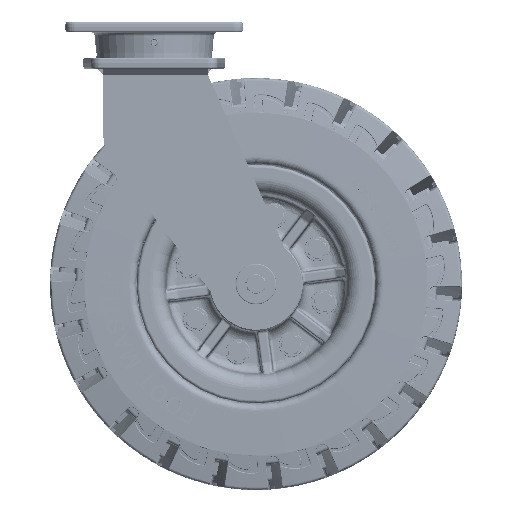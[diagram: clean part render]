
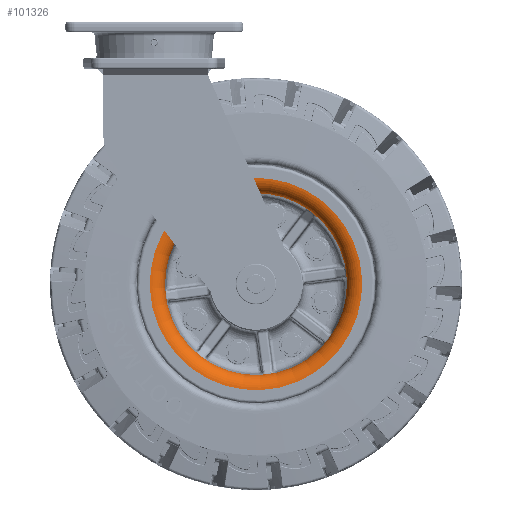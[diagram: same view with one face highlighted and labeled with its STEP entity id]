
A CAD part, front view. The second image highlights one B-rep face of the part: STEP entity #101326.
In plain terms, the highlighted toroidal (fillet/blend) face has major radius 104.361 mm and minor radius 15 mm.
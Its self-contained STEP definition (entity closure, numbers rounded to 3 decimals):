
#3569=TOROIDAL_SURFACE('',#108193,104.361,15.);
#14905=FACE_OUTER_BOUND('',#21103,.T.);
#21103=EDGE_LOOP('',(#67699,#67700,#67701,#67702,#67703,#67704,#67705));
#34962=CIRCLE('',#108173,89.418);
#34963=CIRCLE('',#108174,89.418);
#34964=CIRCLE('',#108175,89.418);
#34975=CIRCLE('',#108191,104.361);
#34976=CIRCLE('',#108192,104.361);
#34977=CIRCLE('',#108194,15.);
#39956=VERTEX_POINT('',#148323);
#39957=VERTEX_POINT('',#148324);
#39958=VERTEX_POINT('',#148327);
#39968=VERTEX_POINT('',#148357);
#39969=VERTEX_POINT('',#148358);
#50271=EDGE_CURVE('',#39956,#39957,#34962,.T.);
#50273=EDGE_CURVE('',#39957,#39958,#34963,.T.);
#50274=EDGE_CURVE('',#39958,#39956,#34964,.T.);
#50288=EDGE_CURVE('',#39968,#39969,#34975,.T.);
#50289=EDGE_CURVE('',#39969,#39968,#34976,.T.);
#50290=EDGE_CURVE('',#39958,#39969,#34977,.T.);
#67699=ORIENTED_EDGE('',*,*,#50271,.F.);
#67700=ORIENTED_EDGE('',*,*,#50274,.F.);
#67701=ORIENTED_EDGE('',*,*,#50290,.T.);
#67702=ORIENTED_EDGE('',*,*,#50289,.T.);
#67703=ORIENTED_EDGE('',*,*,#50288,.T.);
#67704=ORIENTED_EDGE('',*,*,#50290,.F.);
#67705=ORIENTED_EDGE('',*,*,#50273,.F.);
#101326=ADVANCED_FACE('',(#14905),#3569,.T.);
#108173=AXIS2_PLACEMENT_3D('',#148325,#116674,#116675);
#108174=AXIS2_PLACEMENT_3D('',#148328,#116677,#116678);
#108175=AXIS2_PLACEMENT_3D('',#148329,#116679,#116680);
#108191=AXIS2_PLACEMENT_3D('',#148359,#116714,#116715);
#108192=AXIS2_PLACEMENT_3D('',#148360,#116716,#116717);
#108193=AXIS2_PLACEMENT_3D('',#148361,#116718,#116719);
#108194=AXIS2_PLACEMENT_3D('',#148362,#116720,#116721);
#116674=DIRECTION('center_axis',(0.,-1.,0.));
#116675=DIRECTION('ref_axis',(-0.793,0.,0.609));
#116677=DIRECTION('center_axis',(0.,-1.,0.));
#116678=DIRECTION('ref_axis',(-0.793,0.,0.609));
#116679=DIRECTION('center_axis',(0.,-1.,0.));
#116680=DIRECTION('ref_axis',(-0.793,0.,0.609));
#116714=DIRECTION('center_axis',(0.,-1.,0.));
#116715=DIRECTION('ref_axis',(-0.793,0.,0.609));
#116716=DIRECTION('center_axis',(0.,-1.,0.));
#116717=DIRECTION('ref_axis',(-0.793,0.,0.609));
#116718=DIRECTION('center_axis',(0.,-1.,0.));
#116719=DIRECTION('ref_axis',(-0.793,0.,0.609));
#116720=DIRECTION('center_axis',(0.609,0.,
0.793));
#116721=DIRECTION('ref_axis',(0.793,0.,-0.609));
#148323=CARTESIAN_POINT('',(154.434,-41.307,-181.56));
#148324=CARTESIAN_POINT('',(45.566,-41.307,-323.44));
#148325=CARTESIAN_POINT('Origin',(100.,-41.307,-252.5));
#148327=CARTESIAN_POINT('',(170.94,-41.307,-306.934));
#148328=CARTESIAN_POINT('Origin',(100.,-41.307,-252.5));
#148329=CARTESIAN_POINT('Origin',(100.,-41.307,-252.5));
#148357=CARTESIAN_POINT('',(163.531,-55.,-169.705));
#148358=CARTESIAN_POINT('',(182.795,-55.,-316.031));
#148359=CARTESIAN_POINT('Origin',(100.,-55.,-252.5));
#148360=CARTESIAN_POINT('Origin',(100.,-55.,-252.5));
#148361=CARTESIAN_POINT('Origin',(100.,-40.,-252.5));
#148362=CARTESIAN_POINT('Origin',(182.795,-40.,-316.031));
